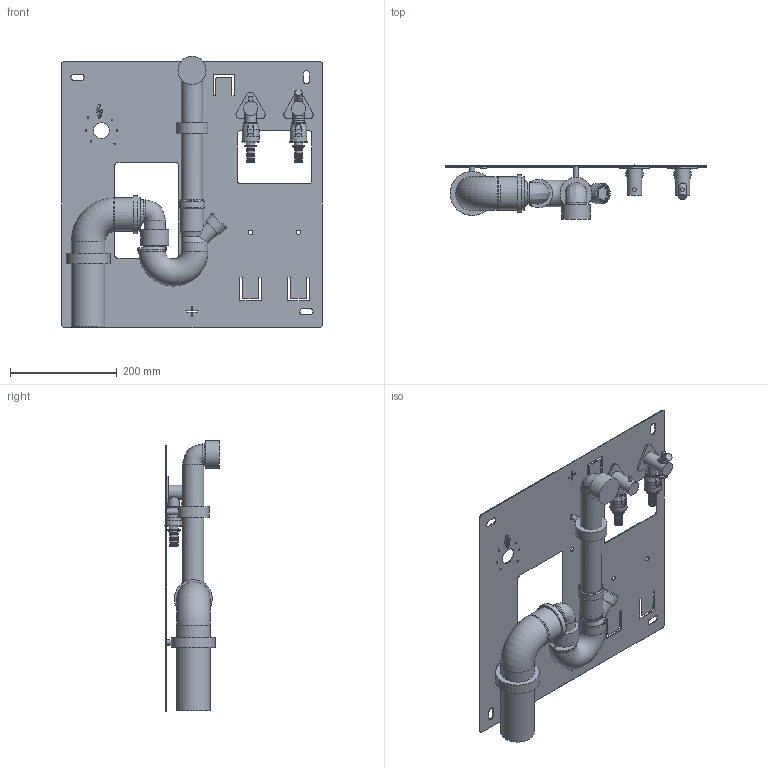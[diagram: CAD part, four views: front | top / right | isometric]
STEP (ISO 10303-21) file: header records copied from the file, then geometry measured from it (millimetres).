
FILE_DESCRIPTION(('STEP AP214'),'1');
FILE_NAME('NYFFix_7960R.STP','2025-09-02T14:14:11',(' '),(' '),'Spatial InterOp 3D',' ',' ');
FILE_SCHEMA(('AUTOMOTIVE_DESIGN { 1 0 10303 214 1 1 1 1 }'));
Length unit declared in the file: millimetre
Products named in the file (1): Torus
Bounding box: 490 x 101.85 x 509.28 mm (x, y, z)
Volume: 1046732.7 mm3; surface area: 871226.3 mm2
Topology: 92 solids, 92 shells, 1034 faces, 2456 edges, 1602 vertices
Faces by surface type: plane 670, cylinder 253, cone 73, torus 23, bspline 15
Full cylindrical faces by diameter (mm): 3 x6, 5.1 x6, 7 x2, 8.5 x5, 10 x2, 10.42 x2, 11.8 x2, 13 x2, 13.3 x2, 13.8 x6, 13.867 x1, 14 x1, 14.66 x4, 14.7 x4, 15 x2, 15.76 x2, 15.8 x2, 20.48 x2, 20.5 x2, 21 x2, 22 x1, 22.36 x2, 22.622 x1, 26.818 x2, 27.2 x2, 29.8 x2, 30 x2, 30.2 x2, 31.8 x2, 32.7 x2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
Entity records: 32618 total; most frequent: CARTESIAN_POINT 6809, DIRECTION 4943, ORIENTED_EDGE 4416, EDGE_CURVE 2208, AXIS2_PLACEMENT_3D 1722, VERTEX_POINT 1566, LINE 1499, VECTOR 1499
